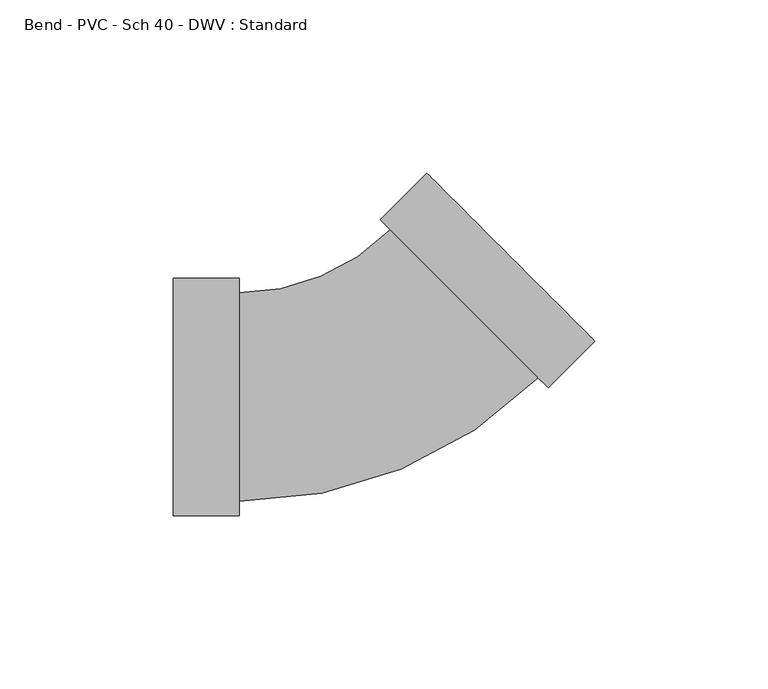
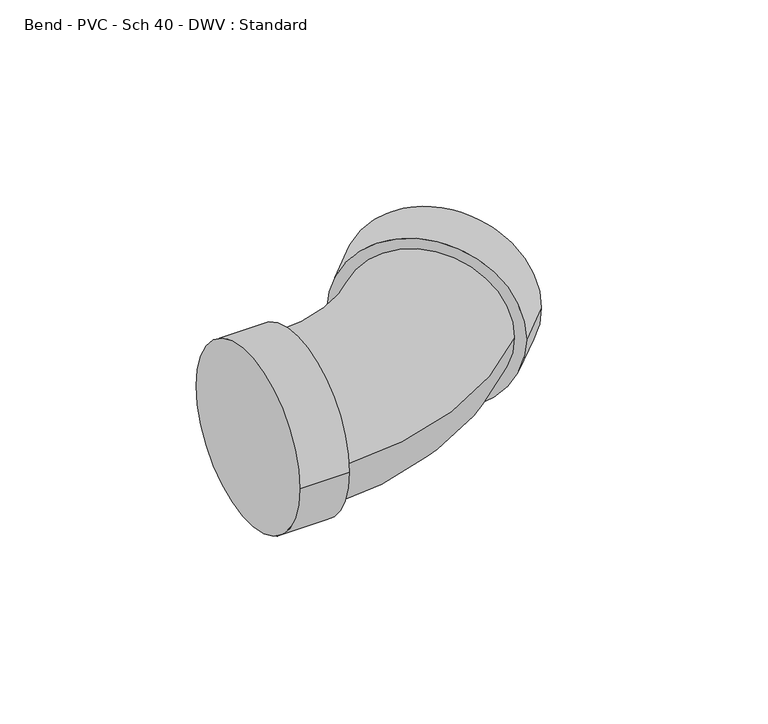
"""IFC4 building model written with IfcOpenShell, lengths in millimetres: pipe fitting geometry, Bend - PVC - Sch 40 - DWV : Standard."""

from ifc_helpers import new_model, si_unit, point, frame, origin, place, context, project, spatial, circle_curve, ellipse_curve, trimmed, source, transform, mapped, element, save
from ifc_brep_helpers import plane_surface, cylinder_surface, revolved_surface, advanced_brep


def bend_pvc_sch_40_dwv_standard_8477e1e2(model_context):
    return source(origin(), model_context, "Body", "AdvancedBrep", [
        advanced_brep(
        [(-57.15, -34.3154, 0.0), (-57.15, 34.3154, 0.0), (-38.1, -34.3154, 0.0), (-38.1, 34.3154, 0.0), (-38.1, -30.1625, 0.0), (-38.1, 30.1625, 0.0), (5.6150824, 48.2685949, 0.0), (48.2691583, 5.6102377, 0.0), (51.2055546, 2.6735466, 0.0), (2.6786861, 51.205286, 0.0), (64.6766148, 16.1432547, 0.0), (16.1497462, 64.6749942, 0.0)],
        [
            (0, 1, circle_curve(frame((-57.15, 0.0, 0.0), z_axis=(-1.0, 0.0, 0.0), x_axis=(0.0, 1.0, 0.0)), 34.3154)),
            (1, 0, circle_curve(frame((-57.15, 0.0, 0.0), z_axis=(-1.0, 0.0, 0.0), x_axis=(0.0, 1.0, 0.0)), 34.3154)),
            (2, 3, circle_curve(frame((-38.1, 0.0, 0.0), z_axis=(1.0, 0.0, 0.0), x_axis=(0.0, 1.0, 0.0)), 34.3154)),
            (3, 2, circle_curve(frame((-38.1, 0.0, 0.0), z_axis=(1.0, 0.0, 0.0), x_axis=(0.0, 1.0, 0.0)), 34.3154)),
            (4, 5, circle_curve(frame((-38.1, 0.0, 0.0), z_axis=(-1.0, 0.0, 0.0), x_axis=(0.0, 1.0, 0.0)), 30.1625)),
            (5, 4, circle_curve(frame((-38.1, 0.0, 0.0), z_axis=(-1.0, 0.0, 0.0), x_axis=(0.0, 1.0, 0.0)), 30.1625)),
            (0, 2),
            (3, 1),
            (6, 5, circle_curve(frame((-38.1, 91.9880652, 0.0), z_axis=(0.0, 0.0, -1.0), x_axis=(0.0, -1.0, 0.0)), 61.8255652)),
            (4, 7, circle_curve(frame((-38.1, 91.9880652, 0.0), z_axis=(0.0, 0.0, 1.0), x_axis=(0.0, -1.0, 0.0)), 122.1505652)),
            (7, 6, circle_curve(frame((26.9421203, 26.9394163, 0.0), z_axis=(-0.7071422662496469, -0.7070712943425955, 0.0), x_axis=(-0.7070712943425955, 0.7071422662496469, 0.0)), 30.1625)),
            (6, 7, circle_curve(frame((26.9421203, 26.9394163, 0.0), z_axis=(-0.7071422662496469, -0.7070712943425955, 0.0), x_axis=(-0.7070712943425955, 0.7071422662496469, 0.0)), 30.1625)),
            (8, 9, circle_curve(frame((26.9421203, 26.9394163, 0.0), z_axis=(-0.7071422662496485, -0.7070712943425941, 0.0), x_axis=(-0.7070712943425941, 0.7071422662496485, 0.0)), 34.3154)),
            (9, 8, circle_curve(frame((26.9421203, 26.9394163, 0.0), z_axis=(-0.7071422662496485, -0.7070712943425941, 0.0), x_axis=(-0.7070712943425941, 0.7071422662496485, 0.0)), 34.3154)),
            (10, 11, circle_curve(frame((40.4131805, 40.4091245, 0.0), z_axis=(0.7071422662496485, 0.7070712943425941, 0.0), x_axis=(-0.7070712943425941, 0.7071422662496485, 0.0)), 34.3154)),
            (11, 10, circle_curve(frame((40.4131805, 40.4091245, 0.0), z_axis=(0.7071422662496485, 0.7070712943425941, 0.0), x_axis=(-0.7070712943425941, 0.7071422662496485, 0.0)), 34.3154)),
            (8, 10),
            (11, 9),
        ],
        [
            plane_surface(frame((-57.15, 0.0, 0.0), z_axis=(-1.0, 0.0, 0.0), x_axis=(0.0, 0.0, 1.0))),
            plane_surface(frame((-38.1, 0.0, 0.0), z_axis=(1.0, 0.0, 0.0), x_axis=(0.0, 0.0, 1.0))),
            cylinder_surface(frame((-57.15, 0.0, 0.0), z_axis=(-1.0, 0.0, 0.0), x_axis=(0.0, 1.0, 0.0)), 34.3154),
            revolved_surface(trimmed(ellipse_curve(frame((-38.1, 0.0, 0.0), z_axis=(-1.0, 0.0, 0.0), x_axis=(0.0, 1.0, 0.0)), 30.1625, 30.1625), [point((-38.1, -30.1625, 0.0))], [point((-38.1, 30.1625, 0.0))], True, "CARTESIAN"), (-38.1, 91.9880652, 0.0), (0.0, 0.0, 1.0)),
            revolved_surface(trimmed(ellipse_curve(frame((-38.1, 0.0, 0.0), z_axis=(-1.0, 0.0, 0.0), x_axis=(0.0, 1.0, 0.0)), 30.1625, 30.1625), [point((-38.1, 30.1625, 0.0))], [point((-38.1, -30.1625, 0.0))], True, "CARTESIAN"), (-38.1, 91.9880652, 0.0), (0.0, 0.0, 1.0)),
            plane_surface(frame((26.9421203, 26.9394163, 0.0), z_axis=(-0.7071422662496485, -0.7070712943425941, 0.0), x_axis=(0.0, 0.0, 1.0))),
            plane_surface(frame((40.4131805, 40.4091245, 0.0), z_axis=(0.7071422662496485, 0.7070712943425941, 0.0), x_axis=(0.0, 0.0, 1.0))),
            cylinder_surface(frame((26.9421203, 26.9394163, 0.0), z_axis=(-0.7071422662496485, -0.7070712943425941, 0.0), x_axis=(-0.7070712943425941, 0.7071422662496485, 0.0)), 34.3154),
        ],
        [
            (0, [[1, 2]]),
            (1, [[3, 4], [5, 6]]),
            (2, [[-1, 7, -4, 8]]),
            (2, [[-2, -8, -3, -7]]),
            (3, [[9, -5, 10, 11]]),
            (4, [[-9, 12, -10, -6]]),
            (5, [[13, 14], [-11, -12]]),
            (6, [[15, 16]]),
            (7, [[-13, 17, -16, 18]]),
            (7, [[-14, -18, -15, -17]]),
        ],
    ),
    ])


if __name__ == "__main__":
    model = new_model("IFC4")
    model_context = context("Model", 3, world=origin())
    ifc_project = project(units=[si_unit("LENGTHUNIT", "METRE", prefix="MILLI")], contexts=[model_context])
    site = spatial("IfcSite", under=ifc_project)
    building = spatial("IfcBuilding", under=site)
    placement = place(None, origin())
    bend_pvc_sch_40_dwv_standard_shape = bend_pvc_sch_40_dwv_standard_8477e1e2(model_context)
    element("IfcPipeFitting", 1, ObjectType="Bend - PVC - Sch 40 - DWV : Standard", at=placement, inside=building, context=model_context, shape_type="MappedRepresentation", body=[
        mapped(bend_pvc_sch_40_dwv_standard_shape, transform((0.0, 0.0, 0.0), x_axis=(1.0, 0.0, 0.0), y_axis=(0.0, 1.0, 0.0), z_axis=(0.0, 0.0, 1.0))),
    ])
    save(model, "model.ifc")
